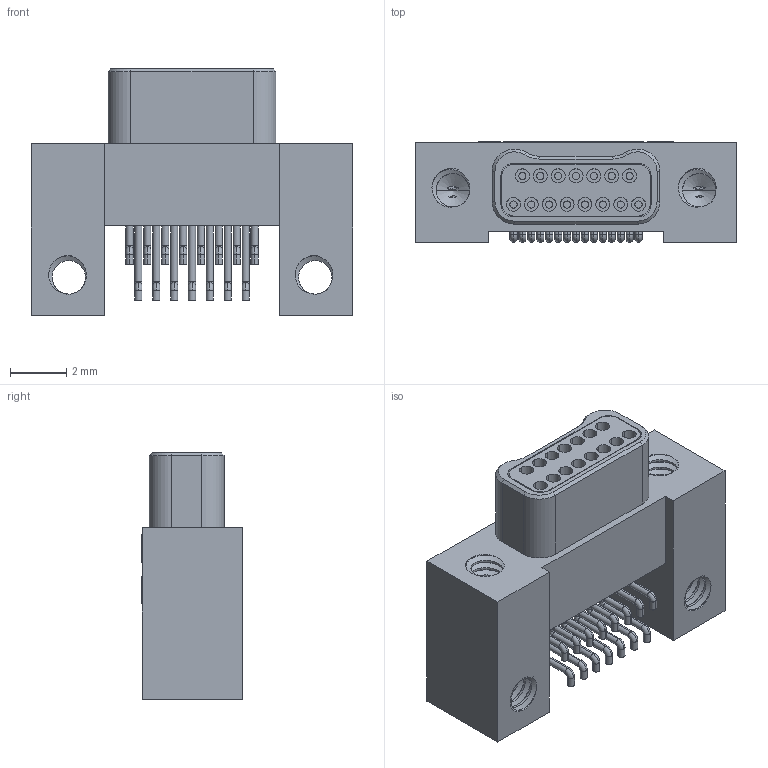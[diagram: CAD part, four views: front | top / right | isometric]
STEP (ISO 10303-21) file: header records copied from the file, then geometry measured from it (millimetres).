
FILE_DESCRIPTION (( 'STEP AP214' ), '1' );
FILE_NAME ('A28100-015 REV G.STEP', '2015-11-04T15:40:30', ( '' ), ( '' ), 'SwSTEP 2.0', 'SolidWorks 2015', '' );
FILE_SCHEMA (( 'AUTOMOTIVE_DESIGN' ));
Length unit declared in the file: inch
Products named in the file (1): A28100-015
Bounding box: 11.43 x 3.57 x 8.76 mm (x, y, z)
Volume: 177.8 mm3; surface area: 615 mm2
Topology: 1 solids, 1 shells, 616 faces, 1541 edges, 996 vertices
Faces by surface type: cylinder 270, plane 206, bspline 62, torus 60, cone 18
Entity records: 29631 total; most frequent: CARTESIAN_POINT 14340, ORIENTED_EDGE 3078, DIRECTION 2867, EDGE_CURVE 1539, AXIS2_PLACEMENT_3D 1081, VERTEX_POINT 996, LINE 705, VECTOR 705
